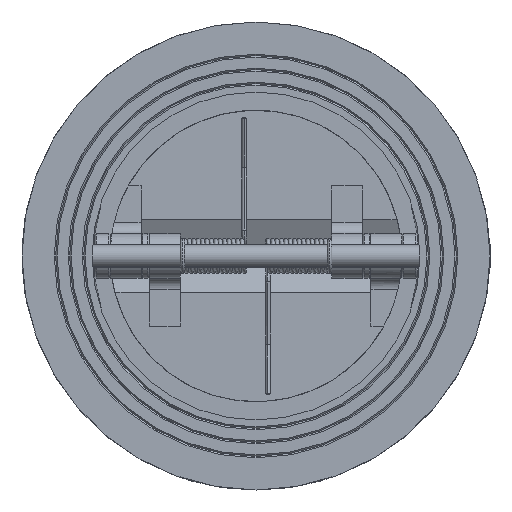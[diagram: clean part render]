
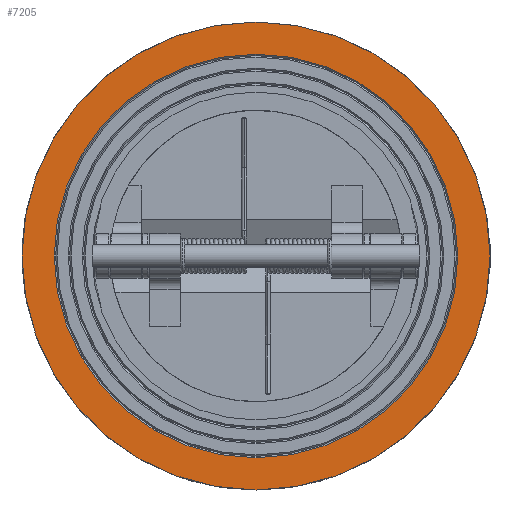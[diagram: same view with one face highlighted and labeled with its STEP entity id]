
A CAD part, left-side view. The second image highlights one B-rep face of the part: STEP entity #7205.
In plain terms, the highlighted planar face has unit normal (-1, 0, 0).
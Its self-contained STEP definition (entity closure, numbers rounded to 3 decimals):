
#1078 = CONICAL_SURFACE('',#1079,72.,0.785);
#1079 = AXIS2_PLACEMENT_3D('',#1080,#1081,#1082);
#1080 = CARTESIAN_POINT('',(-27.,37.,0.));
#1081 = DIRECTION('',(-1.,0.,0.));
#1082 = DIRECTION('',(0.,1.,0.));
#1115 = VERTEX_POINT('',#1116);
#1116 = CARTESIAN_POINT('',(-27.,109.,0.));
#1123 = CONICAL_SURFACE('',#1124,72.,0.785);
#1124 = AXIS2_PLACEMENT_3D('',#1125,#1126,#1127);
#1125 = CARTESIAN_POINT('',(-27.,37.,0.));
#1126 = DIRECTION('',(-1.,0.,0.));
#1127 = DIRECTION('',(0.,1.,0.));
#1142 = EDGE_CURVE('',#1143,#1115,#1145,.T.);
#1143 = VERTEX_POINT('',#1144);
#1144 = CARTESIAN_POINT('',(-27.,-35.,0.));
#1145 = SURFACE_CURVE('',#1146,(#1151,#1158),.PCURVE_S1.);
#1146 = CIRCLE('',#1147,72.);
#1147 = AXIS2_PLACEMENT_3D('',#1148,#1149,#1150);
#1148 = CARTESIAN_POINT('',(-27.,37.,0.));
#1149 = DIRECTION('',(-1.,0.,0.));
#1150 = DIRECTION('',(0.,1.,0.));
#1151 = PCURVE('',#1123,#1152);
#1152 = DEFINITIONAL_REPRESENTATION('',(#1153),#1157);
#1153 = LINE('',#1154,#1155);
#1154 = CARTESIAN_POINT('',(0.,0.));
#1155 = VECTOR('',#1156,1.);
#1156 = DIRECTION('',(1.,0.));
#1157 = ( GEOMETRIC_REPRESENTATION_CONTEXT(2) 
PARAMETRIC_REPRESENTATION_CONTEXT() REPRESENTATION_CONTEXT('2D SPACE',''
  ) );
#1158 = PCURVE('',#1159,#1164);
#1159 = PLANE('',#1160);
#1160 = AXIS2_PLACEMENT_3D('',#1161,#1162,#1163);
#1161 = CARTESIAN_POINT('',(-27.,37.,-58.5));
#1162 = DIRECTION('',(-1.,0.,0.));
#1163 = DIRECTION('',(0.,1.,0.));
#1164 = DEFINITIONAL_REPRESENTATION('',(#1165),#1169);
#1165 = CIRCLE('',#1166,72.);
#1166 = AXIS2_PLACEMENT_2D('',#1167,#1168);
#1167 = CARTESIAN_POINT('',(0.,-58.5));
#1168 = DIRECTION('',(1.,0.));
#1169 = ( GEOMETRIC_REPRESENTATION_CONTEXT(2) 
PARAMETRIC_REPRESENTATION_CONTEXT() REPRESENTATION_CONTEXT('2D SPACE',''
  ) );
#1893 = CYLINDRICAL_SURFACE('',#1894,83.5);
#1894 = AXIS2_PLACEMENT_3D('',#1895,#1896,#1897);
#1895 = CARTESIAN_POINT('',(-27.502,37.,0.));
#1896 = DIRECTION('',(-1.,0.,0.));
#1897 = DIRECTION('',(0.,1.,0.));
#2024 = CYLINDRICAL_SURFACE('',#2025,83.5);
#2025 = AXIS2_PLACEMENT_3D('',#2026,#2027,#2028);
#2026 = CARTESIAN_POINT('',(-27.502,37.,0.));
#2027 = DIRECTION('',(-1.,0.,0.));
#2028 = DIRECTION('',(0.,1.,0.));
#6725 = VERTEX_POINT('',#6726);
#6726 = CARTESIAN_POINT('',(-27.,-46.5,0.));
#6747 = EDGE_CURVE('',#6748,#6725,#6750,.T.);
#6748 = VERTEX_POINT('',#6749);
#6749 = CARTESIAN_POINT('',(-27.,120.5,0.));
#6750 = SURFACE_CURVE('',#6751,(#6756,#6763),.PCURVE_S1.);
#6751 = CIRCLE('',#6752,83.5);
#6752 = AXIS2_PLACEMENT_3D('',#6753,#6754,#6755);
#6753 = CARTESIAN_POINT('',(-27.,37.,0.));
#6754 = DIRECTION('',(-1.,0.,0.));
#6755 = DIRECTION('',(0.,1.,0.));
#6756 = PCURVE('',#1893,#6757);
#6757 = DEFINITIONAL_REPRESENTATION('',(#6758),#6762);
#6758 = LINE('',#6759,#6760);
#6759 = CARTESIAN_POINT('',(0.,-0.502));
#6760 = VECTOR('',#6761,1.);
#6761 = DIRECTION('',(1.,0.));
#6762 = ( GEOMETRIC_REPRESENTATION_CONTEXT(2) 
PARAMETRIC_REPRESENTATION_CONTEXT() REPRESENTATION_CONTEXT('2D SPACE',''
  ) );
#6763 = PCURVE('',#1159,#6764);
#6764 = DEFINITIONAL_REPRESENTATION('',(#6765),#6769);
#6765 = CIRCLE('',#6766,83.5);
#6766 = AXIS2_PLACEMENT_2D('',#6767,#6768);
#6767 = CARTESIAN_POINT('',(0.,-58.5));
#6768 = DIRECTION('',(1.,0.));
#6769 = ( GEOMETRIC_REPRESENTATION_CONTEXT(2) 
PARAMETRIC_REPRESENTATION_CONTEXT() REPRESENTATION_CONTEXT('2D SPACE',''
  ) );
#7205 = ADVANCED_FACE('',(#7206,#7231),#1159,.T.);
#7206 = FACE_BOUND('',#7207,.T.);
#7207 = EDGE_LOOP('',(#7208,#7209));
#7208 = ORIENTED_EDGE('',*,*,#6747,.T.);
#7209 = ORIENTED_EDGE('',*,*,#7210,.T.);
#7210 = EDGE_CURVE('',#6725,#6748,#7211,.T.);
#7211 = SURFACE_CURVE('',#7212,(#7217,#7224),.PCURVE_S1.);
#7212 = CIRCLE('',#7213,83.5);
#7213 = AXIS2_PLACEMENT_3D('',#7214,#7215,#7216);
#7214 = CARTESIAN_POINT('',(-27.,37.,0.));
#7215 = DIRECTION('',(-1.,0.,0.));
#7216 = DIRECTION('',(0.,1.,0.));
#7217 = PCURVE('',#1159,#7218);
#7218 = DEFINITIONAL_REPRESENTATION('',(#7219),#7223);
#7219 = CIRCLE('',#7220,83.5);
#7220 = AXIS2_PLACEMENT_2D('',#7221,#7222);
#7221 = CARTESIAN_POINT('',(0.,-58.5));
#7222 = DIRECTION('',(1.,0.));
#7223 = ( GEOMETRIC_REPRESENTATION_CONTEXT(2) 
PARAMETRIC_REPRESENTATION_CONTEXT() REPRESENTATION_CONTEXT('2D SPACE',''
  ) );
#7224 = PCURVE('',#2024,#7225);
#7225 = DEFINITIONAL_REPRESENTATION('',(#7226),#7230);
#7226 = LINE('',#7227,#7228);
#7227 = CARTESIAN_POINT('',(0.,-0.502));
#7228 = VECTOR('',#7229,1.);
#7229 = DIRECTION('',(1.,0.));
#7230 = ( GEOMETRIC_REPRESENTATION_CONTEXT(2) 
PARAMETRIC_REPRESENTATION_CONTEXT() REPRESENTATION_CONTEXT('2D SPACE',''
  ) );
#7231 = FACE_BOUND('',#7232,.T.);
#7232 = EDGE_LOOP('',(#7233,#7255));
#7233 = ORIENTED_EDGE('',*,*,#7234,.F.);
#7234 = EDGE_CURVE('',#1115,#1143,#7235,.T.);
#7235 = SURFACE_CURVE('',#7236,(#7241,#7248),.PCURVE_S1.);
#7236 = CIRCLE('',#7237,72.);
#7237 = AXIS2_PLACEMENT_3D('',#7238,#7239,#7240);
#7238 = CARTESIAN_POINT('',(-27.,37.,0.));
#7239 = DIRECTION('',(-1.,0.,0.));
#7240 = DIRECTION('',(0.,1.,0.));
#7241 = PCURVE('',#1159,#7242);
#7242 = DEFINITIONAL_REPRESENTATION('',(#7243),#7247);
#7243 = CIRCLE('',#7244,72.);
#7244 = AXIS2_PLACEMENT_2D('',#7245,#7246);
#7245 = CARTESIAN_POINT('',(0.,-58.5));
#7246 = DIRECTION('',(1.,0.));
#7247 = ( GEOMETRIC_REPRESENTATION_CONTEXT(2) 
PARAMETRIC_REPRESENTATION_CONTEXT() REPRESENTATION_CONTEXT('2D SPACE',''
  ) );
#7248 = PCURVE('',#1078,#7249);
#7249 = DEFINITIONAL_REPRESENTATION('',(#7250),#7254);
#7250 = LINE('',#7251,#7252);
#7251 = CARTESIAN_POINT('',(0.,0.));
#7252 = VECTOR('',#7253,1.);
#7253 = DIRECTION('',(1.,0.));
#7254 = ( GEOMETRIC_REPRESENTATION_CONTEXT(2) 
PARAMETRIC_REPRESENTATION_CONTEXT() REPRESENTATION_CONTEXT('2D SPACE',''
  ) );
#7255 = ORIENTED_EDGE('',*,*,#1142,.F.);
